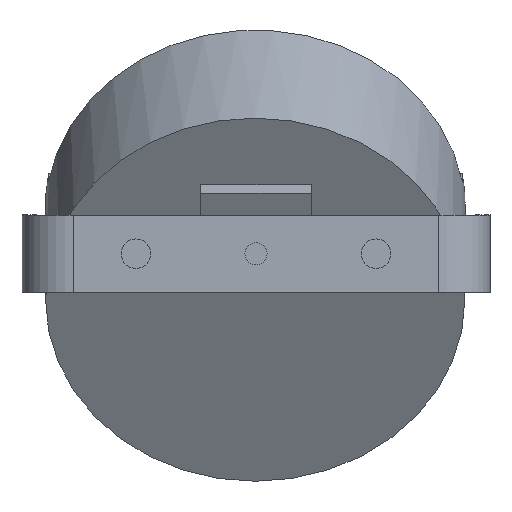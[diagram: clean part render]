
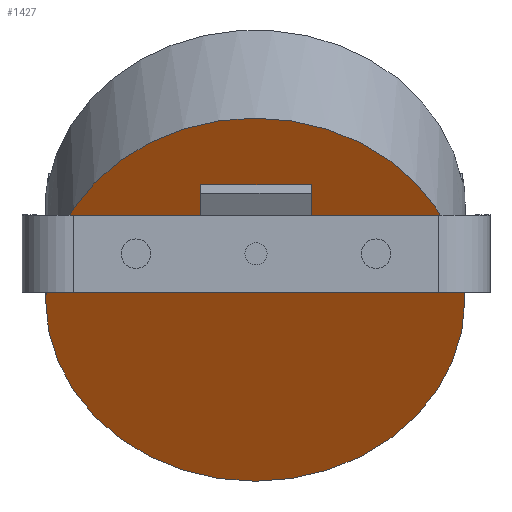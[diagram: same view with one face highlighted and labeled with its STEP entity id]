
A CAD part, front view. The second image highlights one B-rep face of the part: STEP entity #1427.
In plain terms, the highlighted planar face has unit normal (-0.001, -0.866, -0.5) as drawn and (-0.001, -1, -0.001) by its records, which use the part's own axes.
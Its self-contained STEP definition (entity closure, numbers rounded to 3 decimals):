
#59=FACE_BOUND('',#317,.T.);
#119=CIRCLE('',#1660,122.229);
#225=FACE_OUTER_BOUND('',#316,.T.);
#316=EDGE_LOOP('',(#1303));
#317=EDGE_LOOP('',(#1304,#1305,#1306,#1307));
#389=LINE('',#2332,#519);
#393=LINE('',#2340,#523);
#396=LINE('',#2346,#526);
#399=LINE('',#2351,#529);
#519=VECTOR('',#1930,10.);
#523=VECTOR('',#1936,10.);
#526=VECTOR('',#1941,10.);
#529=VECTOR('',#1946,10.);
#656=VERTEX_POINT('',#2330);
#657=VERTEX_POINT('',#2331);
#660=VERTEX_POINT('',#2339);
#662=VERTEX_POINT('',#2345);
#707=VERTEX_POINT('',#3262);
#828=EDGE_CURVE('',#656,#657,#389,.T.);
#832=EDGE_CURVE('',#657,#660,#393,.T.);
#835=EDGE_CURVE('',#660,#662,#396,.T.);
#838=EDGE_CURVE('',#662,#656,#399,.T.);
#900=EDGE_CURVE('',#707,#707,#119,.T.);
#1303=ORIENTED_EDGE('',*,*,#900,.T.);
#1304=ORIENTED_EDGE('',*,*,#828,.T.);
#1305=ORIENTED_EDGE('',*,*,#832,.T.);
#1306=ORIENTED_EDGE('',*,*,#835,.T.);
#1307=ORIENTED_EDGE('',*,*,#838,.T.);
#1352=PLANE('',#1667);
#1427=ADVANCED_FACE('',(#225,#59),#1352,.F.);
#1660=AXIS2_PLACEMENT_3D('',#3263,#2059,#2060);
#1667=AXIS2_PLACEMENT_3D('',#3940,#2079,#2080);
#1930=DIRECTION('',(0.,0.001,-1.));
#1936=DIRECTION('',(-1.,0.001,0.));
#1941=DIRECTION('',(0.,-0.001,1.));
#1946=DIRECTION('',(1.,-0.001,0.));
#2059=DIRECTION('center_axis',(-0.001,-1.,
-0.001));
#2060=DIRECTION('ref_axis',(-1.,0.001,0.));
#2079=DIRECTION('center_axis',(0.001,1.,0.001));
#2080=DIRECTION('ref_axis',(-1.,0.001,0.));
#2330=CARTESIAN_POINT('',(32.2,0.032,77.85));
#2331=CARTESIAN_POINT('',(32.2,0.048,48.45));
#2332=CARTESIAN_POINT('',(32.2,0.06,24.48));
#2339=CARTESIAN_POINT('',(-32.2,0.102,48.45));
#2340=CARTESIAN_POINT('',(-16.331,0.089,48.45));
#2345=CARTESIAN_POINT('',(-32.2,0.087,77.85));
#2346=CARTESIAN_POINT('',(-32.2,0.107,39.18));
#2351=CARTESIAN_POINT('',(15.869,0.046,77.85));
#3262=CARTESIAN_POINT('',(121.766,-0.003,0.51));
#3263=CARTESIAN_POINT('Origin',(-0.463,0.1,0.51));
#3940=CARTESIAN_POINT('Origin',(-0.463,0.1,0.51));
